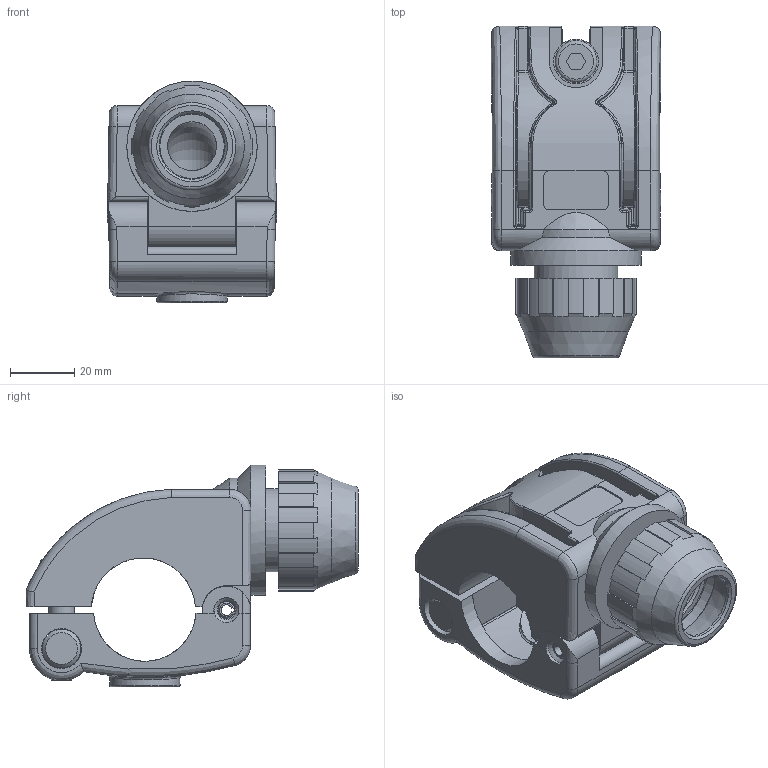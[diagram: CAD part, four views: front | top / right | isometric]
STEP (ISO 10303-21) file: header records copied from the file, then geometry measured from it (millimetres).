
FILE_DESCRIPTION( ( 'STEP AP214' ), '1' );
FILE_NAME( ' ', ' ', ( ' ' ), ( ' ' ), 'PSStep 11.0', 'VISI 17.0', ' ' );
FILE_SCHEMA( ( 'AUTOMOTIVE_DESIGN { 1 0 10303 214 1 1 1 1 }' ) );
Length unit declared in the file: millimetre
Products named in the file (10): 1; 2; 3; 4; 5; 6; 7; 8; 9; 10
Bounding box: 52.9 x 103.69 x 69.3 mm (x, y, z)
Volume: 128853.2 mm3; surface area: 55152.7 mm2
Topology: 10 solids, 10 shells, 396 faces, 994 edges, 623 vertices
Faces by surface type: plane 136, cylinder 134, bspline 75, cone 19, sphere 18, torus 14
Full cylindrical faces by diameter (mm): 5.3 x1, 5.8 x1, 5.904 x1, 7.8 x1, 8 x2, 9 x1, 12 x1, 12.5 x1, 13 x1, 14 x1, 15.27 x3, 15.5 x1, 20.6 x2, 22 x1, 24.9 x1, 26 x1, 29.88 x1, 31 x1, 33 x2, 40.72 x1
Entity records: 30366 total; most frequent: CARTESIAN_POINT 18320, ORIENTED_EDGE 1850, DIRECTION 1708, EDGE_CURVE 925, AXIS2_PLACEMENT_3D 661, VERTEX_POINT 602, EDGE_LOOP 471, FACE_OUTER_BOUND 429
